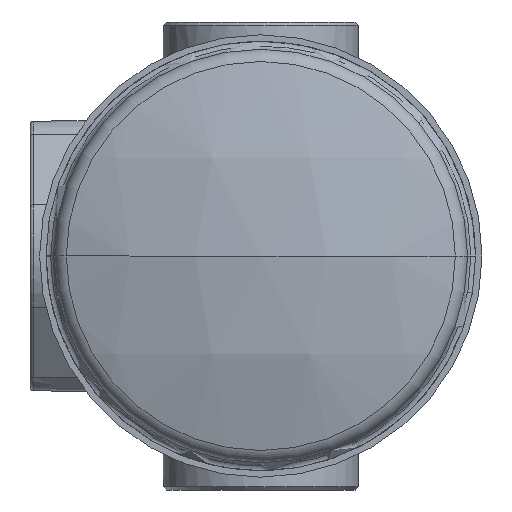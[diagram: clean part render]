
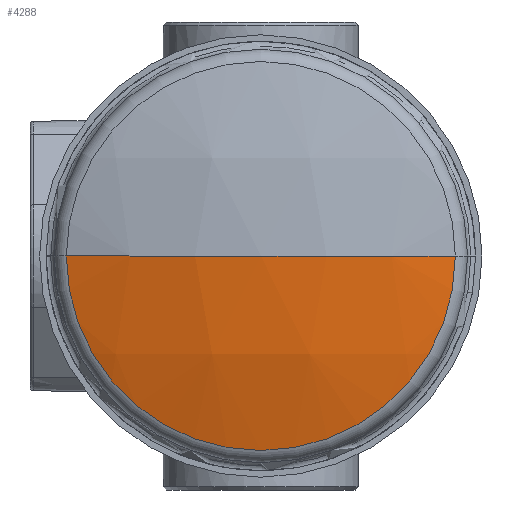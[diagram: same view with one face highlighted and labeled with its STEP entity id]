
A CAD part, front view. The second image highlights one B-rep face of the part: STEP entity #4288.
In plain terms, the highlighted spherical face has radius 200 mm.
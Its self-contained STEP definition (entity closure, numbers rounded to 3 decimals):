
#1164 = AXIS2_PLACEMENT_3D ( 'NONE', #4531, #16775, #6305 ) ;
#1375 = CARTESIAN_POINT ( 'NONE',  ( 60.668, -174.576, 0. ) ) ;
#2839 = AXIS2_PLACEMENT_3D ( 'NONE', #3053, #15299, #4814 ) ;
#3053 = CARTESIAN_POINT ( 'NONE',  ( 0., 16., 0. ) ) ;
#4066 = CIRCLE ( 'NONE', #1164, 200. ) ;
#4288 = ADVANCED_FACE ( 'NONE', ( #10564 ), #5898, .T. ) ;
#4531 = CARTESIAN_POINT ( 'NONE',  ( 0., 16., 0. ) ) ;
#4814 = DIRECTION ( 'NONE',  ( 1., 0., 0. ) ) ;
#5157 = CIRCLE ( 'NONE', #2839, 200. ) ;
#5177 = ORIENTED_EDGE ( 'NONE', *, *, #6582, .F. ) ;
#5831 = VERTEX_POINT ( 'NONE', #1375 ) ;
#5898 = SPHERICAL_SURFACE ( 'NONE', #21487, 200. ) ;
#6305 = DIRECTION ( 'NONE',  ( -1., 0., 0. ) ) ;
#6582 = EDGE_CURVE ( 'NONE', #19544, #18022, #5157, .T. ) ;
#6720 = CARTESIAN_POINT ( 'NONE',  ( 0., -184., 0. ) ) ;
#9488 = ORIENTED_EDGE ( 'NONE', *, *, #21462, .T. ) ;
#9578 = CARTESIAN_POINT ( 'NONE',  ( 0., -174.576, 0. ) ) ;
#10564 = FACE_OUTER_BOUND ( 'NONE', #13027, .T. ) ;
#11330 = DIRECTION ( 'NONE',  ( 1., 0., 0. ) ) ;
#12358 = DIRECTION ( 'NONE',  ( -1., 0., 0. ) ) ;
#13027 = EDGE_LOOP ( 'NONE', ( #9488, #17202, #5177 ) ) ;
#13976 = AXIS2_PLACEMENT_3D ( 'NONE', #9578, #21697, #11330 ) ;
#14354 = CARTESIAN_POINT ( 'NONE',  ( 0., 16., 0. ) ) ;
#15299 = DIRECTION ( 'NONE',  ( 0., 0., 1. ) ) ;
#15815 = CIRCLE ( 'NONE', #13976, 60.668 ) ;
#16775 = DIRECTION ( 'NONE',  ( 0., 0., -1. ) ) ;
#17177 = CARTESIAN_POINT ( 'NONE',  ( -60.668, -174.576, 0. ) ) ;
#17202 = ORIENTED_EDGE ( 'NONE', *, *, #19861, .T. ) ;
#18022 = VERTEX_POINT ( 'NONE', #6720 ) ;
#19544 = VERTEX_POINT ( 'NONE', #17177 ) ;
#19861 = EDGE_CURVE ( 'NONE', #5831, #18022, #4066, .T. ) ;
#21215 = DIRECTION ( 'NONE',  ( 0., 0., -1. ) ) ;
#21462 = EDGE_CURVE ( 'NONE', #19544, #5831, #15815, .T. ) ;
#21487 = AXIS2_PLACEMENT_3D ( 'NONE', #14354, #21215, #12358 ) ;
#21697 = DIRECTION ( 'NONE',  ( 0., -1., 0. ) ) ;
